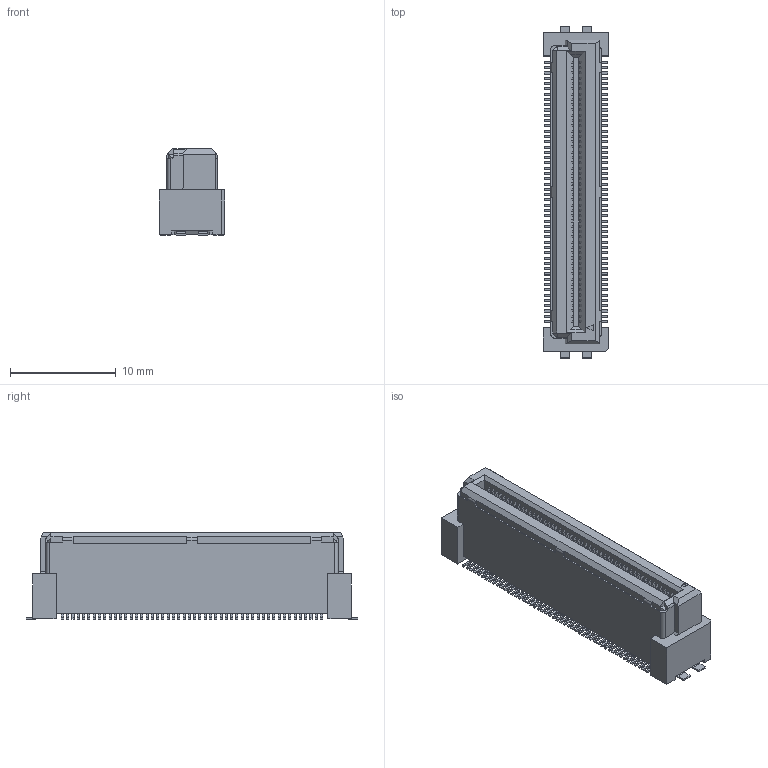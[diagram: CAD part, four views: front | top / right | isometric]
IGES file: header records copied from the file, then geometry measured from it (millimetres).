
Start section: Elysium IGES Interface
Global section: file name: 65HC:\Users\1390\Desktop\新しいフォルダー\P3D582_DT10S-100S-10-T.igs; native system: Creo Elements/Direct Modeling 20.6  25-Mar-2023; preprocessor: Creo Element/Direct IGES_3D V2.2; author: Unknown; organization: Unknown; date: 20250501.114309; units: millimetre
Bounding box: 6.2 x 31.4 x 8.18 mm (x, y, z)
Volume: 975.4 mm3; surface area: 1177.5 mm2
Topology: 1 solids, 1 shells, 1954 faces, 5228 edges, 3482 vertices
Faces by surface type: bspline 1954
